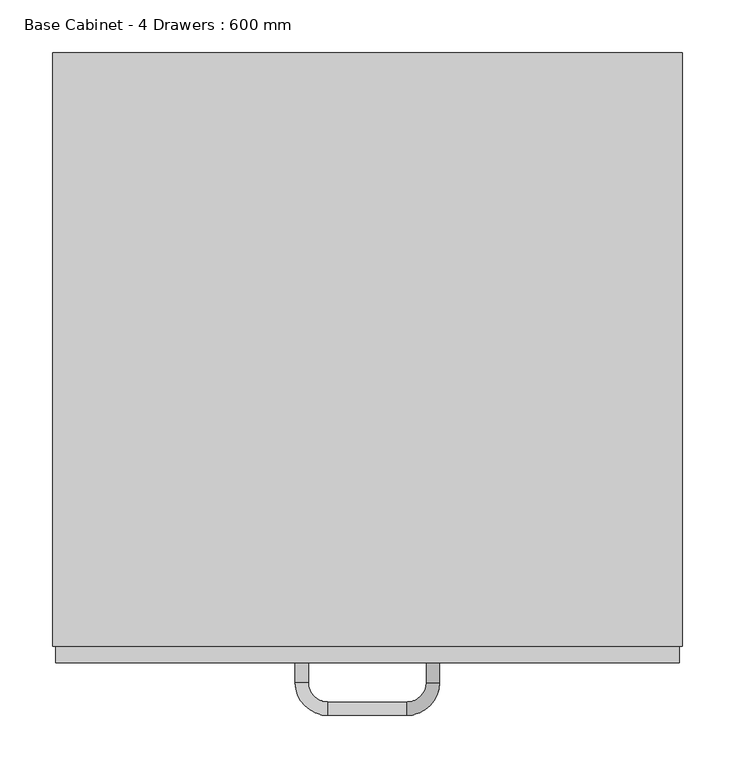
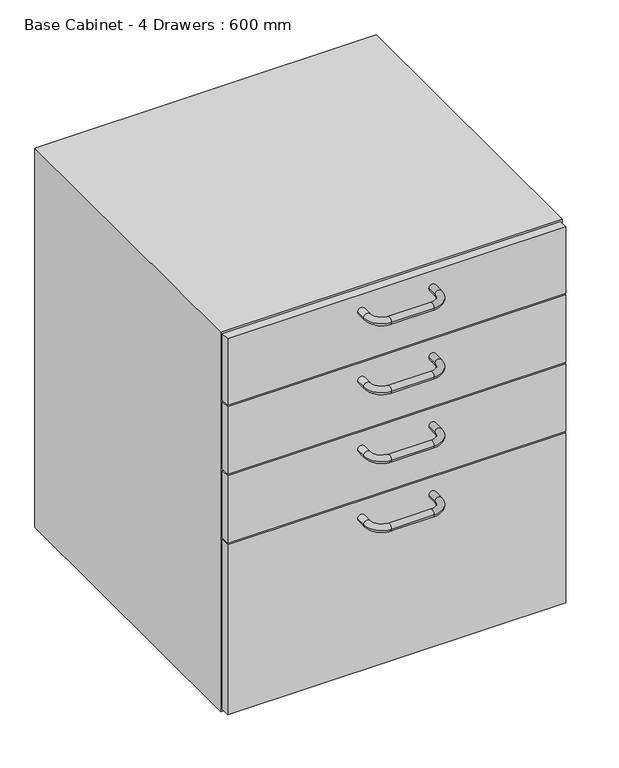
"""IFC4 building model written with IfcOpenShell, lengths in millimetres: furniture geometry, Base Cabinet - 4 Drawers : 600 mm."""

from ifc_helpers import new_model, si_unit, point, frame, origin, place, context, project, spatial, polyline, circle_curve, ellipse_curve, trimmed, outline, extrude, source, transform, mapped, element, save
from ifc_brep_helpers import plane_surface, cylinder_surface, revolved_surface, advanced_brep


def base_cabinet_4_drawers_600_mm_7743cde6(model_context):
    return source(origin(), model_context, "Body", "SolidModel", [
        extrude(outline(polyline([(341.7003264, -581.0), (-252.2996736, -581.0), (-252.2996736, -565.0), (341.7003264, -565.0), (341.7003264, -581.0)])), frame((0.0, 0.0, 741.5), z_axis=(0.0, 0.0, 1.0), x_axis=(1.0, 0.0, 0.0)), (0.0, 0.0, 1.0), 123.5),
        extrude(outline(polyline([(341.7003264, -581.0), (-252.2996736, -581.0), (-252.2996736, -565.0), (341.7003264, -565.0), (341.7003264, -581.0)])), frame((0.0, 0.0, 167.0), z_axis=(0.0, 0.0, 1.0), x_axis=(1.0, 0.0, 0.0)), (0.0, 0.0, 1.0), 315.5),
        extrude(outline(polyline([(341.7003264, -581.0), (-252.2996736, -581.0), (-252.2996736, -565.0), (341.7003264, -565.0), (341.7003264, -581.0)])), frame((0.0, 0.0, 613.5), z_axis=(0.0, 0.0, 1.0), x_axis=(1.0, 0.0, 0.0)), (0.0, 0.0, 1.0), 125.0),
        extrude(outline(polyline([(341.7003264, -581.0), (-252.2996736, -581.0), (-252.2996736, -565.0), (341.7003264, -565.0), (341.7003264, -581.0)])), frame((0.0, 0.0, 485.5), z_axis=(0.0, 0.0, 1.0), x_axis=(1.0, 0.0, 0.0)), (0.0, 0.0, 1.0), 125.0),
        advanced_brep(
        [(113.4503264, -581.0, 451.0), (100.9503264, -581.0, 451.0), (113.4503264, -599.75, 451.0), (100.9503264, -599.75, 451.0), (82.2003264, -618.5, 451.0), (82.2003264, -631.0, 451.0), (7.2003264, -631.0, 451.0), (7.2003264, -618.5, 451.0), (-11.5496736, -599.75, 451.0), (-24.0496736, -599.75, 451.0), (-24.0496736, -581.0, 451.0), (-11.5496736, -581.0, 451.0)],
        [
            (0, 1, circle_curve(frame((107.2003264, -581.0, 451.0), z_axis=(0.0, 1.0, 0.0), x_axis=(-1.0, 0.0, 0.0)), 6.25)),
            (1, 0, circle_curve(frame((107.2003264, -581.0, 451.0), z_axis=(0.0, 1.0, 0.0), x_axis=(-1.0, 0.0, 0.0)), 6.25)),
            (0, 2),
            (2, 3, circle_curve(frame((107.2003264, -599.75, 451.0), z_axis=(0.0, 1.0, 0.0), x_axis=(-1.0, 0.0, 0.0)), 6.25)),
            (3, 1),
            (3, 2, circle_curve(frame((107.2003264, -599.75, 451.0), z_axis=(0.0, 1.0, 0.0), x_axis=(-1.0, 0.0, 0.0)), 6.25)),
            (4, 3, circle_curve(frame((82.2003264, -599.75, 451.0), z_axis=(0.0, 0.0, 1.0), x_axis=(1.0, 0.0, 0.0)), 18.75)),
            (2, 5, circle_curve(frame((82.2003264, -599.75, 451.0), z_axis=(0.0, 0.0, -1.0), x_axis=(1.0, 0.0, 0.0)), 31.25)),
            (5, 4, circle_curve(frame((82.2003264, -624.75, 451.0), z_axis=(1.0, 0.0, 0.0), x_axis=(0.0, 1.0, 0.0)), 6.25)),
            (4, 5, circle_curve(frame((82.2003264, -624.75, 451.0), z_axis=(1.0, 0.0, 0.0), x_axis=(0.0, 1.0, 0.0)), 6.25)),
            (5, 6),
            (6, 7, circle_curve(frame((7.2003264, -624.75, 451.0), z_axis=(1.0, 0.0, 0.0), x_axis=(0.0, 1.0, 0.0)), 6.25)),
            (7, 4),
            (7, 6, circle_curve(frame((7.2003264, -624.75, 451.0), z_axis=(1.0, 0.0, 0.0), x_axis=(0.0, 1.0, 0.0)), 6.25)),
            (8, 7, circle_curve(frame((7.2003264, -599.75, 451.0), z_axis=(0.0, 0.0, 1.0), x_axis=(0.0, -1.0, 0.0)), 18.75)),
            (6, 9, circle_curve(frame((7.2003264, -599.75, 451.0), z_axis=(0.0, 0.0, -1.0), x_axis=(0.0, -1.0, 0.0)), 31.25)),
            (9, 8, circle_curve(frame((-17.7996736, -599.75, 451.0), z_axis=(0.0, -1.0, 0.0), x_axis=(1.0, 0.0, 0.0)), 6.25)),
            (8, 9, circle_curve(frame((-17.7996736, -599.75, 451.0), z_axis=(0.0, -1.0, 0.0), x_axis=(1.0, 0.0, 0.0)), 6.25)),
            (10, 11, circle_curve(frame((-17.7996736, -581.0, 451.0), z_axis=(0.0, 1.0, 0.0), x_axis=(1.0, 0.0, 0.0)), 6.25)),
            (11, 10, circle_curve(frame((-17.7996736, -581.0, 451.0), z_axis=(0.0, 1.0, 0.0), x_axis=(1.0, 0.0, 0.0)), 6.25)),
            (9, 10),
            (11, 8),
        ],
        [
            plane_surface(frame((107.2003264, -581.0, 451.0), z_axis=(0.0, 1.0, 0.0), x_axis=(0.0, 0.0, -1.0))),
            cylinder_surface(frame((107.2003264, -581.0, 451.0), z_axis=(0.0, 1.0, 0.0), x_axis=(-1.0, 0.0, 0.0)), 6.25),
            revolved_surface(trimmed(ellipse_curve(frame((107.2003264, -599.75, 451.0), z_axis=(0.0, 1.0, 0.0), x_axis=(-1.0, 0.0, 0.0)), 6.25, 6.25), [point((113.4503264, -599.75, 451.0))], [point((100.9503264, -599.75, 451.0))], True, "CARTESIAN"), (82.2003264, -599.75, 451.0), (0.0, 0.0, -1.0)),
            revolved_surface(trimmed(ellipse_curve(frame((107.2003264, -599.75, 451.0), z_axis=(0.0, 1.0, 0.0), x_axis=(-1.0, 0.0, 0.0)), 6.25, 6.25), [point((100.9503264, -599.75, 451.0))], [point((113.4503264, -599.75, 451.0))], True, "CARTESIAN"), (82.2003264, -599.75, 451.0), (0.0, 0.0, -1.0)),
            cylinder_surface(frame((82.2003264, -624.75, 451.0), z_axis=(1.0, 0.0, 0.0), x_axis=(0.0, 1.0, 0.0)), 6.25),
            revolved_surface(trimmed(ellipse_curve(frame((7.2003264, -624.75, 451.0), z_axis=(1.0, 0.0, 0.0), x_axis=(0.0, 1.0, 0.0)), 6.25, 6.25), [point((7.2003264, -631.0, 451.0))], [point((7.2003264, -618.5, 451.0))], True, "CARTESIAN"), (7.2003264, -599.75, 451.0), (0.0, 0.0, -1.0)),
            revolved_surface(trimmed(ellipse_curve(frame((7.2003264, -624.75, 451.0), z_axis=(1.0, 0.0, 0.0), x_axis=(0.0, 1.0, 0.0)), 6.25, 6.25), [point((7.2003264, -618.5, 451.0))], [point((7.2003264, -631.0, 451.0))], True, "CARTESIAN"), (7.2003264, -599.75, 451.0), (0.0, 0.0, -1.0)),
            plane_surface(frame((-17.7996736, -581.0, 451.0), z_axis=(0.0, 1.0, 0.0), x_axis=(0.0, 0.0, -1.0))),
            cylinder_surface(frame((-17.7996736, -599.75, 451.0), z_axis=(0.0, -1.0, 0.0), x_axis=(1.0, 0.0, 0.0)), 6.25),
        ],
        [
            (0, [[1, 2]]),
            (1, [[-1, 3, 4, 5]]),
            (1, [[-2, -5, 6, -3]]),
            (2, [[7, -4, 8, 9]]),
            (3, [[-8, -6, -7, 10]]),
            (4, [[-9, 11, 12, 13]]),
            (4, [[-10, -13, 14, -11]]),
            (5, [[15, -12, 16, 17]]),
            (6, [[-16, -14, -15, 18]]),
            (7, [[19, 20]]),
            (8, [[-17, 21, -20, 22]]),
            (8, [[-18, -22, -19, -21]]),
        ],
    ),
        advanced_brep(
        [(113.4503264, -581.0, 579.0), (100.9503264, -581.0, 579.0), (113.4503264, -599.75, 579.0), (100.9503264, -599.75, 579.0), (82.2003264, -618.5, 579.0), (82.2003264, -631.0, 579.0), (7.2003264, -631.0, 579.0), (7.2003264, -618.5, 579.0), (-11.5496736, -599.75, 579.0), (-24.0496736, -599.75, 579.0), (-24.0496736, -581.0, 579.0), (-11.5496736, -581.0, 579.0)],
        [
            (0, 1, circle_curve(frame((107.2003264, -581.0, 579.0), z_axis=(0.0, 1.0, 0.0), x_axis=(-1.0, 0.0, 0.0)), 6.25)),
            (1, 0, circle_curve(frame((107.2003264, -581.0, 579.0), z_axis=(0.0, 1.0, 0.0), x_axis=(-1.0, 0.0, 0.0)), 6.25)),
            (0, 2),
            (2, 3, circle_curve(frame((107.2003264, -599.75, 579.0), z_axis=(0.0, 1.0, 0.0), x_axis=(-1.0, 0.0, 0.0)), 6.25)),
            (3, 1),
            (3, 2, circle_curve(frame((107.2003264, -599.75, 579.0), z_axis=(0.0, 1.0, 0.0), x_axis=(-1.0, 0.0, 0.0)), 6.25)),
            (4, 3, circle_curve(frame((82.2003264, -599.75, 579.0), z_axis=(0.0, 0.0, 1.0), x_axis=(1.0, 0.0, 0.0)), 18.75)),
            (2, 5, circle_curve(frame((82.2003264, -599.75, 579.0), z_axis=(0.0, 0.0, -1.0), x_axis=(1.0, 0.0, 0.0)), 31.25)),
            (5, 4, circle_curve(frame((82.2003264, -624.75, 579.0), z_axis=(1.0, 0.0, 0.0), x_axis=(0.0, 1.0, 0.0)), 6.25)),
            (4, 5, circle_curve(frame((82.2003264, -624.75, 579.0), z_axis=(1.0, 0.0, 0.0), x_axis=(0.0, 1.0, 0.0)), 6.25)),
            (5, 6),
            (6, 7, circle_curve(frame((7.2003264, -624.75, 579.0), z_axis=(1.0, 0.0, 0.0), x_axis=(0.0, 1.0, 0.0)), 6.25)),
            (7, 4),
            (7, 6, circle_curve(frame((7.2003264, -624.75, 579.0), z_axis=(1.0, 0.0, 0.0), x_axis=(0.0, 1.0, 0.0)), 6.25)),
            (8, 7, circle_curve(frame((7.2003264, -599.75, 579.0), z_axis=(0.0, 0.0, 1.0), x_axis=(0.0, -1.0, 0.0)), 18.75)),
            (6, 9, circle_curve(frame((7.2003264, -599.75, 579.0), z_axis=(0.0, 0.0, -1.0), x_axis=(0.0, -1.0, 0.0)), 31.25)),
            (9, 8, circle_curve(frame((-17.7996736, -599.75, 579.0), z_axis=(0.0, -1.0, 0.0), x_axis=(1.0, 0.0, 0.0)), 6.25)),
            (8, 9, circle_curve(frame((-17.7996736, -599.75, 579.0), z_axis=(0.0, -1.0, 0.0), x_axis=(1.0, 0.0, 0.0)), 6.25)),
            (10, 11, circle_curve(frame((-17.7996736, -581.0, 579.0), z_axis=(0.0, 1.0, 0.0), x_axis=(1.0, 0.0, 0.0)), 6.25)),
            (11, 10, circle_curve(frame((-17.7996736, -581.0, 579.0), z_axis=(0.0, 1.0, 0.0), x_axis=(1.0, 0.0, 0.0)), 6.25)),
            (9, 10),
            (11, 8),
        ],
        [
            plane_surface(frame((107.2003264, -581.0, 579.0), z_axis=(0.0, 1.0, 0.0), x_axis=(0.0, 0.0, -1.0))),
            cylinder_surface(frame((107.2003264, -581.0, 579.0), z_axis=(0.0, 1.0, 0.0), x_axis=(-1.0, 0.0, 0.0)), 6.25),
            revolved_surface(trimmed(ellipse_curve(frame((107.2003264, -599.75, 579.0), z_axis=(0.0, 1.0, 0.0), x_axis=(-1.0, 0.0, 0.0)), 6.25, 6.25), [point((113.4503264, -599.75, 579.0))], [point((100.9503264, -599.75, 579.0))], True, "CARTESIAN"), (82.2003264, -599.75, 579.0), (0.0, 0.0, -1.0)),
            revolved_surface(trimmed(ellipse_curve(frame((107.2003264, -599.75, 579.0), z_axis=(0.0, 1.0, 0.0), x_axis=(-1.0, 0.0, 0.0)), 6.25, 6.25), [point((100.9503264, -599.75, 579.0))], [point((113.4503264, -599.75, 579.0))], True, "CARTESIAN"), (82.2003264, -599.75, 579.0), (0.0, 0.0, -1.0)),
            cylinder_surface(frame((82.2003264, -624.75, 579.0), z_axis=(1.0, 0.0, 0.0), x_axis=(0.0, 1.0, 0.0)), 6.25),
            revolved_surface(trimmed(ellipse_curve(frame((7.2003264, -624.75, 579.0), z_axis=(1.0, 0.0, 0.0), x_axis=(0.0, 1.0, 0.0)), 6.25, 6.25), [point((7.2003264, -631.0, 579.0))], [point((7.2003264, -618.5, 579.0))], True, "CARTESIAN"), (7.2003264, -599.75, 579.0), (0.0, 0.0, -1.0)),
            revolved_surface(trimmed(ellipse_curve(frame((7.2003264, -624.75, 579.0), z_axis=(1.0, 0.0, 0.0), x_axis=(0.0, 1.0, 0.0)), 6.25, 6.25), [point((7.2003264, -618.5, 579.0))], [point((7.2003264, -631.0, 579.0))], True, "CARTESIAN"), (7.2003264, -599.75, 579.0), (0.0, 0.0, -1.0)),
            plane_surface(frame((-17.7996736, -581.0, 579.0), z_axis=(0.0, 1.0, 0.0), x_axis=(0.0, 0.0, -1.0))),
            cylinder_surface(frame((-17.7996736, -599.75, 579.0), z_axis=(0.0, -1.0, 0.0), x_axis=(1.0, 0.0, 0.0)), 6.25),
        ],
        [
            (0, [[1, 2]]),
            (1, [[-1, 3, 4, 5]]),
            (1, [[-2, -5, 6, -3]]),
            (2, [[7, -4, 8, 9]]),
            (3, [[-8, -6, -7, 10]]),
            (4, [[-9, 11, 12, 13]]),
            (4, [[-10, -13, 14, -11]]),
            (5, [[15, -12, 16, 17]]),
            (6, [[-16, -14, -15, 18]]),
            (7, [[19, 20]]),
            (8, [[-17, 21, -20, 22]]),
            (8, [[-18, -22, -19, -21]]),
        ],
    ),
        advanced_brep(
        [(113.4503264, -581.0, 707.0), (100.9503264, -581.0, 707.0), (113.4503264, -599.75, 707.0), (100.9503264, -599.75, 707.0), (82.2003264, -618.5, 707.0), (82.2003264, -631.0, 707.0), (7.2003264, -631.0, 707.0), (7.2003264, -618.5, 707.0), (-11.5496736, -599.75, 707.0), (-24.0496736, -599.75, 707.0), (-24.0496736, -581.0, 707.0), (-11.5496736, -581.0, 707.0)],
        [
            (0, 1, circle_curve(frame((107.2003264, -581.0, 707.0), z_axis=(0.0, 1.0, 0.0), x_axis=(-1.0, 0.0, 0.0)), 6.25)),
            (1, 0, circle_curve(frame((107.2003264, -581.0, 707.0), z_axis=(0.0, 1.0, 0.0), x_axis=(-1.0, 0.0, 0.0)), 6.25)),
            (0, 2),
            (2, 3, circle_curve(frame((107.2003264, -599.75, 707.0), z_axis=(0.0, 1.0, 0.0), x_axis=(-1.0, 0.0, 0.0)), 6.25)),
            (3, 1),
            (3, 2, circle_curve(frame((107.2003264, -599.75, 707.0), z_axis=(0.0, 1.0, 0.0), x_axis=(-1.0, 0.0, 0.0)), 6.25)),
            (4, 3, circle_curve(frame((82.2003264, -599.75, 707.0), z_axis=(0.0, 0.0, 1.0), x_axis=(1.0, 0.0, 0.0)), 18.75)),
            (2, 5, circle_curve(frame((82.2003264, -599.75, 707.0), z_axis=(0.0, 0.0, -1.0), x_axis=(1.0, 0.0, 0.0)), 31.25)),
            (5, 4, circle_curve(frame((82.2003264, -624.75, 707.0), z_axis=(1.0, 0.0, 0.0), x_axis=(0.0, 1.0, 0.0)), 6.25)),
            (4, 5, circle_curve(frame((82.2003264, -624.75, 707.0), z_axis=(1.0, 0.0, 0.0), x_axis=(0.0, 1.0, 0.0)), 6.25)),
            (5, 6),
            (6, 7, circle_curve(frame((7.2003264, -624.75, 707.0), z_axis=(1.0, 0.0, 0.0), x_axis=(0.0, 1.0, 0.0)), 6.25)),
            (7, 4),
            (7, 6, circle_curve(frame((7.2003264, -624.75, 707.0), z_axis=(1.0, 0.0, 0.0), x_axis=(0.0, 1.0, 0.0)), 6.25)),
            (8, 7, circle_curve(frame((7.2003264, -599.75, 707.0), z_axis=(0.0, 0.0, 1.0), x_axis=(0.0, -1.0, 0.0)), 18.75)),
            (6, 9, circle_curve(frame((7.2003264, -599.75, 707.0), z_axis=(0.0, 0.0, -1.0), x_axis=(0.0, -1.0, 0.0)), 31.25)),
            (9, 8, circle_curve(frame((-17.7996736, -599.75, 707.0), z_axis=(0.0, -1.0, 0.0), x_axis=(1.0, 0.0, 0.0)), 6.25)),
            (8, 9, circle_curve(frame((-17.7996736, -599.75, 707.0), z_axis=(0.0, -1.0, 0.0), x_axis=(1.0, 0.0, 0.0)), 6.25)),
            (10, 11, circle_curve(frame((-17.7996736, -581.0, 707.0), z_axis=(0.0, 1.0, 0.0), x_axis=(1.0, 0.0, 0.0)), 6.25)),
            (11, 10, circle_curve(frame((-17.7996736, -581.0, 707.0), z_axis=(0.0, 1.0, 0.0), x_axis=(1.0, 0.0, 0.0)), 6.25)),
            (9, 10),
            (11, 8),
        ],
        [
            plane_surface(frame((107.2003264, -581.0, 707.0), z_axis=(0.0, 1.0, 0.0), x_axis=(0.0, 0.0, -1.0))),
            cylinder_surface(frame((107.2003264, -581.0, 707.0), z_axis=(0.0, 1.0, 0.0), x_axis=(-1.0, 0.0, 0.0)), 6.25),
            revolved_surface(trimmed(ellipse_curve(frame((107.2003264, -599.75, 707.0), z_axis=(0.0, 1.0, 0.0), x_axis=(-1.0, 0.0, 0.0)), 6.25, 6.25), [point((113.4503264, -599.75, 707.0))], [point((100.9503264, -599.75, 707.0))], True, "CARTESIAN"), (82.2003264, -599.75, 707.0), (0.0, 0.0, -1.0)),
            revolved_surface(trimmed(ellipse_curve(frame((107.2003264, -599.75, 707.0), z_axis=(0.0, 1.0, 0.0), x_axis=(-1.0, 0.0, 0.0)), 6.25, 6.25), [point((100.9503264, -599.75, 707.0))], [point((113.4503264, -599.75, 707.0))], True, "CARTESIAN"), (82.2003264, -599.75, 707.0), (0.0, 0.0, -1.0)),
            cylinder_surface(frame((82.2003264, -624.75, 707.0), z_axis=(1.0, 0.0, 0.0), x_axis=(0.0, 1.0, 0.0)), 6.25),
            revolved_surface(trimmed(ellipse_curve(frame((7.2003264, -624.75, 707.0), z_axis=(1.0, 0.0, 0.0), x_axis=(0.0, 1.0, 0.0)), 6.25, 6.25), [point((7.2003264, -631.0, 707.0))], [point((7.2003264, -618.5, 707.0))], True, "CARTESIAN"), (7.2003264, -599.75, 707.0), (0.0, 0.0, -1.0)),
            revolved_surface(trimmed(ellipse_curve(frame((7.2003264, -624.75, 707.0), z_axis=(1.0, 0.0, 0.0), x_axis=(0.0, 1.0, 0.0)), 6.25, 6.25), [point((7.2003264, -618.5, 707.0))], [point((7.2003264, -631.0, 707.0))], True, "CARTESIAN"), (7.2003264, -599.75, 707.0), (0.0, 0.0, -1.0)),
            plane_surface(frame((-17.7996736, -581.0, 707.0), z_axis=(0.0, 1.0, 0.0), x_axis=(0.0, 0.0, -1.0))),
            cylinder_surface(frame((-17.7996736, -599.75, 707.0), z_axis=(0.0, -1.0, 0.0), x_axis=(1.0, 0.0, 0.0)), 6.25),
        ],
        [
            (0, [[1, 2]]),
            (1, [[-1, 3, 4, 5]]),
            (1, [[-2, -5, 6, -3]]),
            (2, [[7, -4, 8, 9]]),
            (3, [[-8, -6, -7, 10]]),
            (4, [[-9, 11, 12, 13]]),
            (4, [[-10, -13, 14, -11]]),
            (5, [[15, -12, 16, 17]]),
            (6, [[-16, -14, -15, 18]]),
            (7, [[19, 20]]),
            (8, [[-17, 21, -20, 22]]),
            (8, [[-18, -22, -19, -21]]),
        ],
    ),
        advanced_brep(
        [(113.4503264, -581.0, 835.0), (100.9503264, -581.0, 835.0), (113.4503264, -599.75, 835.0), (100.9503264, -599.75, 835.0), (82.2003264, -618.5, 835.0), (82.2003264, -631.0, 835.0), (7.2003264, -631.0, 835.0), (7.2003264, -618.5, 835.0), (-11.5496736, -599.75, 835.0), (-24.0496736, -599.75, 835.0), (-24.0496736, -581.0, 835.0), (-11.5496736, -581.0, 835.0)],
        [
            (0, 1, circle_curve(frame((107.2003264, -581.0, 835.0), z_axis=(0.0, 1.0, 0.0), x_axis=(-1.0, 0.0, 0.0)), 6.25)),
            (1, 0, circle_curve(frame((107.2003264, -581.0, 835.0), z_axis=(0.0, 1.0, 0.0), x_axis=(-1.0, 0.0, 0.0)), 6.25)),
            (0, 2),
            (2, 3, circle_curve(frame((107.2003264, -599.75, 835.0), z_axis=(0.0, 1.0, 0.0), x_axis=(-1.0, 0.0, 0.0)), 6.25)),
            (3, 1),
            (3, 2, circle_curve(frame((107.2003264, -599.75, 835.0), z_axis=(0.0, 1.0, 0.0), x_axis=(-1.0, 0.0, 0.0)), 6.25)),
            (4, 3, circle_curve(frame((82.2003264, -599.75, 835.0), z_axis=(0.0, 0.0, 1.0), x_axis=(1.0, 0.0, 0.0)), 18.75)),
            (2, 5, circle_curve(frame((82.2003264, -599.75, 835.0), z_axis=(0.0, 0.0, -1.0), x_axis=(1.0, 0.0, 0.0)), 31.25)),
            (5, 4, circle_curve(frame((82.2003264, -624.75, 835.0), z_axis=(1.0, 0.0, 0.0), x_axis=(0.0, 1.0, 0.0)), 6.25)),
            (4, 5, circle_curve(frame((82.2003264, -624.75, 835.0), z_axis=(1.0, 0.0, 0.0), x_axis=(0.0, 1.0, 0.0)), 6.25)),
            (5, 6),
            (6, 7, circle_curve(frame((7.2003264, -624.75, 835.0), z_axis=(1.0, 0.0, 0.0), x_axis=(0.0, 1.0, 0.0)), 6.25)),
            (7, 4),
            (7, 6, circle_curve(frame((7.2003264, -624.75, 835.0), z_axis=(1.0, 0.0, 0.0), x_axis=(0.0, 1.0, 0.0)), 6.25)),
            (8, 7, circle_curve(frame((7.2003264, -599.75, 835.0), z_axis=(0.0, 0.0, 1.0), x_axis=(0.0, -1.0, 0.0)), 18.75)),
            (6, 9, circle_curve(frame((7.2003264, -599.75, 835.0), z_axis=(0.0, 0.0, -1.0), x_axis=(0.0, -1.0, 0.0)), 31.25)),
            (9, 8, circle_curve(frame((-17.7996736, -599.75, 835.0), z_axis=(0.0, -1.0, 0.0), x_axis=(1.0, 0.0, 0.0)), 6.25)),
            (8, 9, circle_curve(frame((-17.7996736, -599.75, 835.0), z_axis=(0.0, -1.0, 0.0), x_axis=(1.0, 0.0, 0.0)), 6.25)),
            (10, 11, circle_curve(frame((-17.7996736, -581.0, 835.0), z_axis=(0.0, 1.0, 0.0), x_axis=(1.0, 0.0, 0.0)), 6.25)),
            (11, 10, circle_curve(frame((-17.7996736, -581.0, 835.0), z_axis=(0.0, 1.0, 0.0), x_axis=(1.0, 0.0, 0.0)), 6.25)),
            (9, 10),
            (11, 8),
        ],
        [
            plane_surface(frame((107.2003264, -581.0, 835.0), z_axis=(0.0, 1.0, 0.0), x_axis=(0.0, 0.0, -1.0))),
            cylinder_surface(frame((107.2003264, -581.0, 835.0), z_axis=(0.0, 1.0, 0.0), x_axis=(-1.0, 0.0, 0.0)), 6.25),
            revolved_surface(trimmed(ellipse_curve(frame((107.2003264, -599.75, 835.0), z_axis=(0.0, 1.0, 0.0), x_axis=(-1.0, 0.0, 0.0)), 6.25, 6.25), [point((113.4503264, -599.75, 835.0))], [point((100.9503264, -599.75, 835.0))], True, "CARTESIAN"), (82.2003264, -599.75, 835.0), (0.0, 0.0, -1.0)),
            revolved_surface(trimmed(ellipse_curve(frame((107.2003264, -599.75, 835.0), z_axis=(0.0, 1.0, 0.0), x_axis=(-1.0, 0.0, 0.0)), 6.25, 6.25), [point((100.9503264, -599.75, 835.0))], [point((113.4503264, -599.75, 835.0))], True, "CARTESIAN"), (82.2003264, -599.75, 835.0), (0.0, 0.0, -1.0)),
            cylinder_surface(frame((82.2003264, -624.75, 835.0), z_axis=(1.0, 0.0, 0.0), x_axis=(0.0, 1.0, 0.0)), 6.25),
            revolved_surface(trimmed(ellipse_curve(frame((7.2003264, -624.75, 835.0), z_axis=(1.0, 0.0, 0.0), x_axis=(0.0, 1.0, 0.0)), 6.25, 6.25), [point((7.2003264, -631.0, 835.0))], [point((7.2003264, -618.5, 835.0))], True, "CARTESIAN"), (7.2003264, -599.75, 835.0), (0.0, 0.0, -1.0)),
            revolved_surface(trimmed(ellipse_curve(frame((7.2003264, -624.75, 835.0), z_axis=(1.0, 0.0, 0.0), x_axis=(0.0, 1.0, 0.0)), 6.25, 6.25), [point((7.2003264, -618.5, 835.0))], [point((7.2003264, -631.0, 835.0))], True, "CARTESIAN"), (7.2003264, -599.75, 835.0), (0.0, 0.0, -1.0)),
            plane_surface(frame((-17.7996736, -581.0, 835.0), z_axis=(0.0, 1.0, 0.0), x_axis=(0.0, 0.0, -1.0))),
            cylinder_surface(frame((-17.7996736, -599.75, 835.0), z_axis=(0.0, -1.0, 0.0), x_axis=(1.0, 0.0, 0.0)), 6.25),
        ],
        [
            (0, [[1, 2]]),
            (1, [[-1, 3, 4, 5]]),
            (1, [[-2, -5, 6, -3]]),
            (2, [[7, -4, 8, 9]]),
            (3, [[-8, -6, -7, 10]]),
            (4, [[-9, 11, 12, 13]]),
            (4, [[-10, -13, 14, -11]]),
            (5, [[15, -12, 16, 17]]),
            (6, [[-16, -14, -15, 18]]),
            (7, [[19, 20]]),
            (8, [[-17, 21, -20, 22]]),
            (8, [[-18, -22, -19, -21]]),
        ],
    ),
        extrude(outline(polyline([(868.0, 344.7003264), (868.0, -255.2996736), (164.0, -255.2996736), (164.0, 344.7003264), (868.0, 344.7003264)]), holes=[polyline([(852.0, 328.7003264), (180.0, 328.7003264), (180.0, -239.2996736), (852.0, -239.2996736), (852.0, 328.7003264)])]), frame((0.0, -565.0, 0.0), z_axis=(0.0, 1.0, 0.0), x_axis=(0.0, 0.0, 1.0)), (0.0, 0.0, 1.0), 565.0),
        extrude(outline(polyline([(328.7003264, -16.0), (-239.2996736, -16.0), (-239.2996736, -10.0), (328.7003264, -10.0), (328.7003264, -16.0)])), frame((0.0, 0.0, 180.0), z_axis=(0.0, 0.0, 1.0), x_axis=(1.0, 0.0, 0.0)), (0.0, 0.0, 1.0), 672.0),
    ])


if __name__ == "__main__":
    model = new_model("IFC4")
    model_context = context("Model", 3, world=origin())
    ifc_project = project(units=[si_unit("LENGTHUNIT", "METRE", prefix="MILLI")], contexts=[model_context])
    site = spatial("IfcSite", under=ifc_project)
    building = spatial("IfcBuilding", under=site)
    placement = place(None, origin())
    base_cabinet_4_drawers_600_mm_shape = base_cabinet_4_drawers_600_mm_7743cde6(model_context)
    element("IfcFurniture", 1, ObjectType="Base Cabinet - 4 Drawers : 600 mm", at=placement, inside=building, context=model_context, shape_type="MappedRepresentation", body=[
        mapped(base_cabinet_4_drawers_600_mm_shape, transform((0.0, 0.0, 0.0), x_axis=(1.0, 0.0, 0.0), y_axis=(0.0, 1.0, 0.0), z_axis=(0.0, 0.0, 1.0))),
    ])
    save(model, "model.ifc")
